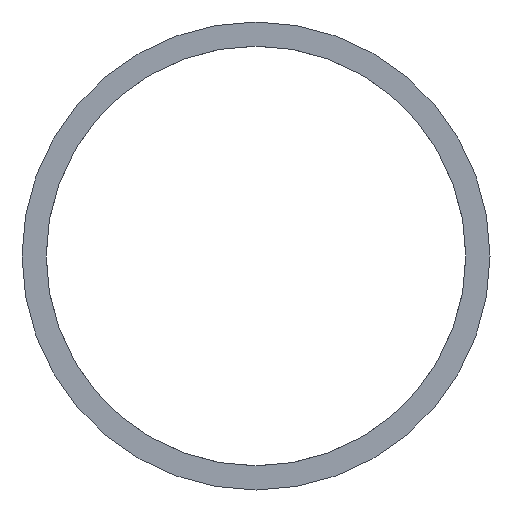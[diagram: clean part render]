
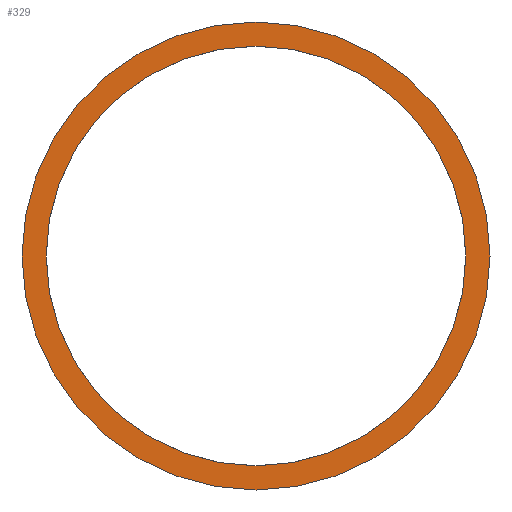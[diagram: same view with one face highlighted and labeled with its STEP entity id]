
A CAD part, front view. The second image highlights one B-rep face of the part: STEP entity #329.
In plain terms, the highlighted planar face has unit normal (0, -1, 0).
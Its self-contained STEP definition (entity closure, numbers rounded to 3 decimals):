
#13 = EDGE_CURVE ( 'NONE', #293, #129, #81, .T. ) ;
#17 = DIRECTION ( 'NONE',  ( 0., -1., 0. ) ) ;
#33 = EDGE_LOOP ( 'NONE', ( #280, #193 ) ) ;
#35 = DIRECTION ( 'NONE',  ( 0., -1., 0. ) ) ;
#38 = FACE_BOUND ( 'NONE', #347, .T. ) ;
#39 = EDGE_CURVE ( 'NONE', #129, #293, #274, .T. ) ;
#47 = CARTESIAN_POINT ( 'NONE',  ( 0., 0., 25.65 ) ) ;
#57 = VERTEX_POINT ( 'NONE', #333 ) ;
#61 = PLANE ( 'NONE',  #96 ) ;
#73 = DIRECTION ( 'NONE',  ( 0., 0., -1. ) ) ;
#81 = CIRCLE ( 'NONE', #135, 25.65 ) ;
#83 = EDGE_CURVE ( 'NONE', #57, #213, #147, .T. ) ;
#96 = AXIS2_PLACEMENT_3D ( 'NONE', #177, #35, #256 ) ;
#106 = CARTESIAN_POINT ( 'NONE',  ( 0., 0., 0. ) ) ;
#108 = CARTESIAN_POINT ( 'NONE',  ( 0., 0., 0. ) ) ;
#128 = CARTESIAN_POINT ( 'NONE',  ( 0., 0., 0. ) ) ;
#129 = VERTEX_POINT ( 'NONE', #47 ) ;
#135 = AXIS2_PLACEMENT_3D ( 'NONE', #328, #151, #73 ) ;
#137 = DIRECTION ( 'NONE',  ( 0., 0., -1. ) ) ;
#147 = CIRCLE ( 'NONE', #358, 23. ) ;
#151 = DIRECTION ( 'NONE',  ( 0., -1., 0. ) ) ;
#159 = AXIS2_PLACEMENT_3D ( 'NONE', #108, #17, #272 ) ;
#177 = CARTESIAN_POINT ( 'NONE',  ( 23., 0., 0. ) ) ;
#193 = ORIENTED_EDGE ( 'NONE', *, *, #39, .T. ) ;
#204 = DIRECTION ( 'NONE',  ( 0., -1., 0. ) ) ;
#213 = VERTEX_POINT ( 'NONE', #253 ) ;
#240 = ORIENTED_EDGE ( 'NONE', *, *, #314, .F. ) ;
#244 = CIRCLE ( 'NONE', #325, 23. ) ;
#253 = CARTESIAN_POINT ( 'NONE',  ( 0., 0., 23. ) ) ;
#256 = DIRECTION ( 'NONE',  ( 0., 0., -1. ) ) ;
#265 = ORIENTED_EDGE ( 'NONE', *, *, #83, .F. ) ;
#272 = DIRECTION ( 'NONE',  ( 0., 0., -1. ) ) ;
#274 = CIRCLE ( 'NONE', #159, 25.65 ) ;
#280 = ORIENTED_EDGE ( 'NONE', *, *, #13, .T. ) ;
#290 = FACE_OUTER_BOUND ( 'NONE', #33, .T. ) ;
#293 = VERTEX_POINT ( 'NONE', #357 ) ;
#314 = EDGE_CURVE ( 'NONE', #213, #57, #244, .T. ) ;
#322 = DIRECTION ( 'NONE',  ( 0., 0., -1. ) ) ;
#325 = AXIS2_PLACEMENT_3D ( 'NONE', #128, #204, #322 ) ;
#328 = CARTESIAN_POINT ( 'NONE',  ( 0., 0., 0. ) ) ;
#329 = ADVANCED_FACE ( 'NONE', ( #290, #38 ), #61, .T. ) ;
#333 = CARTESIAN_POINT ( 'NONE',  ( 0., 0., -23. ) ) ;
#347 = EDGE_LOOP ( 'NONE', ( #265, #240 ) ) ;
#357 = CARTESIAN_POINT ( 'NONE',  ( 0., 0., -25.65 ) ) ;
#358 = AXIS2_PLACEMENT_3D ( 'NONE', #106, #367, #137 ) ;
#367 = DIRECTION ( 'NONE',  ( 0., -1., 0. ) ) ;
